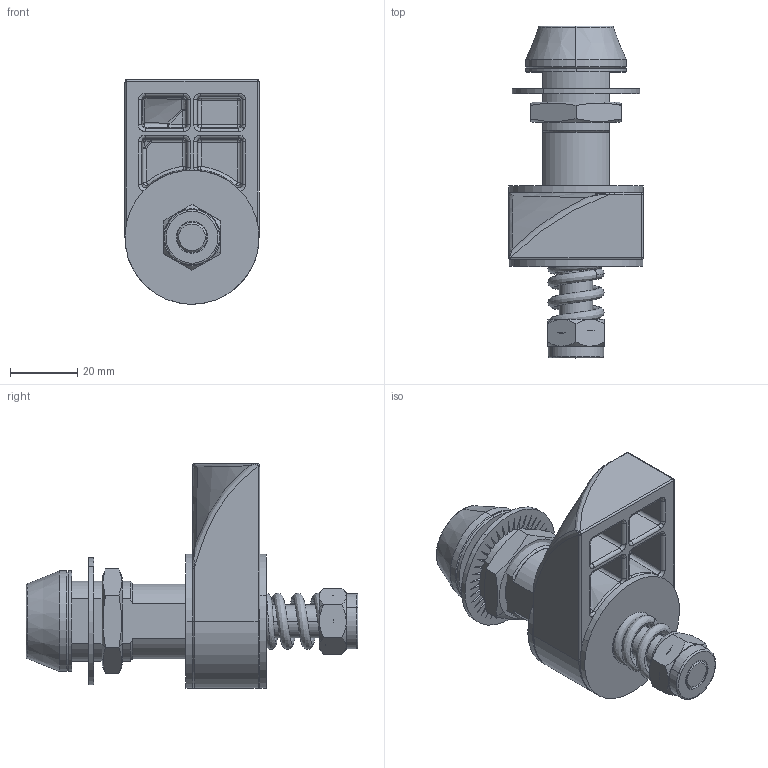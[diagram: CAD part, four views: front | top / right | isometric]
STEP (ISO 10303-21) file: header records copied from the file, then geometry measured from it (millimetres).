
FILE_DESCRIPTION (( 'STEP AP214' ), '1' );
FILE_NAME ('M24C - T10 - SN.STEP', '2017-11-09T10:03:06', ( '' ), ( '' ), 'SwSTEP 2.0', 'SolidWorks 2015', '' );
FILE_SCHEMA (( 'AUTOMOTIVE_DESIGN' ));
Length unit declared in the file: millimetre
Products named in the file (12): 5.B02.557.001.03_A; 5.B02.557.001.02_A; M24C - T10 - SN; DIN 6798 J_M24 - A2; 2.IP65.005_A; O-RING 9,1x1,6_A; DIN 982_M10-A2; 5.B02.557.001.07_A; 5.B02.557.001.01_A; 5.B02.557.001.06_A; 5.B02.557.001.05_A; 5.B02.557.001.04_A
Assembly tree (14 placements, depth 2):
  M24C - T10 - SN
    5.B02.557.001.02_A
    5.B02.557.001.03_A
    5.B02.557.001.04_A
    5.B02.557.001.05_A
    5.B02.557.001.06_A
    5.B02.557.001.01_A
    5.B02.557.001.07_A
    DIN 982_M10-A2
    O-RING 9,1x1,6_A  x4
    2.IP65.005_A
    DIN 6798 J_M24 - A2
Bounding box: 40 x 99 x 67 mm (x, y, z)
Volume: 72297.7 mm3; surface area: 35645.8 mm2
Topology: 15 solids, 15 shells, 522 faces, 1286 edges, 794 vertices
Faces by surface type: plane 256, cylinder 115, cone 49, bspline 49, torus 28, sphere 25
Entity records: 19493 total; most frequent: CARTESIAN_POINT 7393, ORIENTED_EDGE 2512, DIRECTION 2347, EDGE_CURVE 1256, AXIS2_PLACEMENT_3D 915, VERTEX_POINT 782, EDGE_LOOP 542, VECTOR 517
